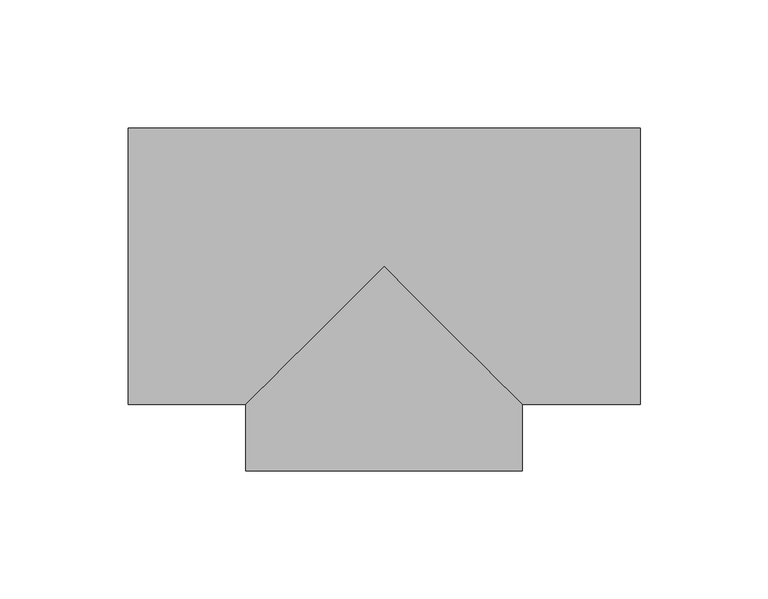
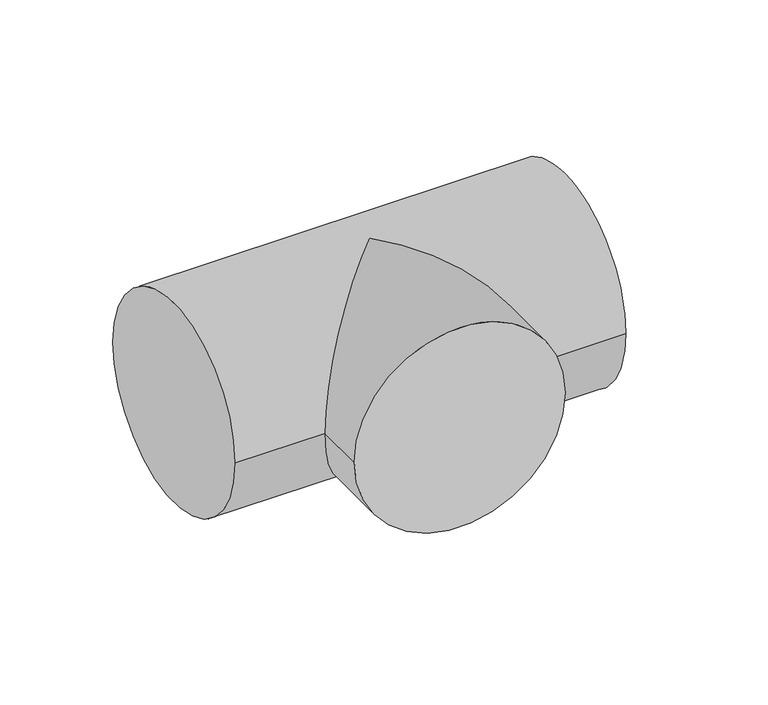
"""IFC4 building model written with IfcOpenShell, lengths in millimetres: pipe fitting geometry, ADSK_ДетальСтальнаяСварная_Тройник_ГОСТ17376-2001 : Исполнение 2."""

from ifc_helpers import new_model, si_unit, frame, origin, place, context, project, spatial, circle_curve, ellipse_curve, source, transform, mapped, element, save
from ifc_brep_helpers import plane_surface, cylinder_surface, advanced_brep


def pipe_fitting_5e47956e(model_context):
    return source(origin(), model_context, "Body", "AdvancedBrep", [
        advanced_brep(
        [(-100.0, -54.0, 0.0), (-100.0, 54.0, 0.0), (100.0, -54.0, 0.0), (100.0, 54.0, 0.0), (-54.0, -54.0, 0.0), (0.0, 0.0, 54.0), (54.0, -54.0, 0.0), (0.0, 0.0, -54.0), (-54.0, -80.0, 0.0), (54.0, -80.0, 0.0)],
        [
            (0, 1, circle_curve(frame((-100.0, 0.0, 0.0), z_axis=(-1.0, 0.0, 0.0), x_axis=(0.0, 1.0, 0.0)), 54.0)),
            (1, 0, circle_curve(frame((-100.0, 0.0, 0.0), z_axis=(-1.0, 0.0, 0.0), x_axis=(0.0, 1.0, 0.0)), 54.0)),
            (2, 3, circle_curve(frame((100.0, 0.0, 0.0), z_axis=(1.0, 0.0, 0.0), x_axis=(0.0, 1.0, 0.0)), 54.0)),
            (3, 2, circle_curve(frame((100.0, 0.0, 0.0), z_axis=(1.0, 0.0, 0.0), x_axis=(0.0, 1.0, 0.0)), 54.0)),
            (0, 4),
            (4, 5, ellipse_curve(frame((0.0, 0.0, 0.0), z_axis=(-0.707106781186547, 0.7071067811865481, 0.0), x_axis=(-0.707106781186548, -0.707106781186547, 0.0)), 76.3675324, 54.0)),
            (5, 6, ellipse_curve(frame((0.0, 0.0, 0.0), z_axis=(0.707106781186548, 0.7071067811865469, 0.0), x_axis=(-0.707106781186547, 0.707106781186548, 0.0)), 76.3675324, 54.0)),
            (6, 2),
            (3, 1),
            (6, 7, ellipse_curve(frame((0.0, 0.0, 0.0), z_axis=(0.707106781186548, 0.7071067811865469, 0.0), x_axis=(-0.707106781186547, 0.707106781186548, 0.0)), 76.3675324, 54.0)),
            (7, 4, ellipse_curve(frame((0.0, 0.0, 0.0), z_axis=(-0.707106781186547, 0.7071067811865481, 0.0), x_axis=(-0.707106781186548, -0.707106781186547, 0.0)), 76.3675324, 54.0)),
            (8, 9, circle_curve(frame((0.0, -80.0, 0.0), z_axis=(0.0, -1.0, 0.0), x_axis=(1.0, 0.0, 0.0)), 54.0)),
            (9, 8, circle_curve(frame((0.0, -80.0, 0.0), z_axis=(0.0, -1.0, 0.0), x_axis=(1.0, 0.0, 0.0)), 54.0)),
            (9, 6),
            (4, 8),
        ],
        [
            plane_surface(frame((-100.0, 0.0, 0.0), z_axis=(-1.0, 0.0, 0.0), x_axis=(0.0, 0.0, 1.0))),
            plane_surface(frame((100.0, 0.0, 0.0), z_axis=(1.0, 0.0, 0.0), x_axis=(0.0, 0.0, 1.0))),
            cylinder_surface(frame((-100.0, 0.0, 0.0), z_axis=(-1.0, 0.0, 0.0), x_axis=(0.0, 1.0, 0.0)), 54.0),
            plane_surface(frame((0.0, -80.0, 0.0), z_axis=(0.0, -1.0, 0.0), x_axis=(0.0, 0.0, 1.0))),
            cylinder_surface(frame((0.0, 0.0, 0.0), z_axis=(0.0, 1.0, 0.0), x_axis=(1.0, 0.0, 0.0)), 54.0),
        ],
        [
            (0, [[1, 2]]),
            (1, [[3, 4]]),
            (2, [[-1, 5, 6, 7, 8, -4, 9]]),
            (2, [[-2, -9, -3, -8, 10, 11, -5]]),
            (3, [[12, 13]]),
            (4, [[-13, 14, -7, -6, 15]]),
            (4, [[-12, -15, -11, -10, -14]]),
        ],
    ),
    ])


if __name__ == "__main__":
    model = new_model("IFC4")
    model_context = context("Model", 3, world=origin())
    ifc_project = project(units=[si_unit("LENGTHUNIT", "METRE", prefix="MILLI")], contexts=[model_context])
    site = spatial("IfcSite", under=ifc_project)
    building = spatial("IfcBuilding", under=site)
    placement = place(None, origin())
    pipe_fitting_shape = pipe_fitting_5e47956e(model_context)
    element("IfcPipeFitting", 1, ObjectType="ADSK_ДетальСтальнаяСварная_Тройник_ГОСТ17376-2001 : Исполнение 2", at=placement, inside=building, context=model_context, shape_type="MappedRepresentation", body=[
        mapped(pipe_fitting_shape, transform((0.0, 0.0, 0.0), x_axis=(1.0, 0.0, 0.0), y_axis=(0.0, 1.0, 0.0), z_axis=(0.0, 0.0, 1.0))),
    ])
    save(model, "model.ifc")
